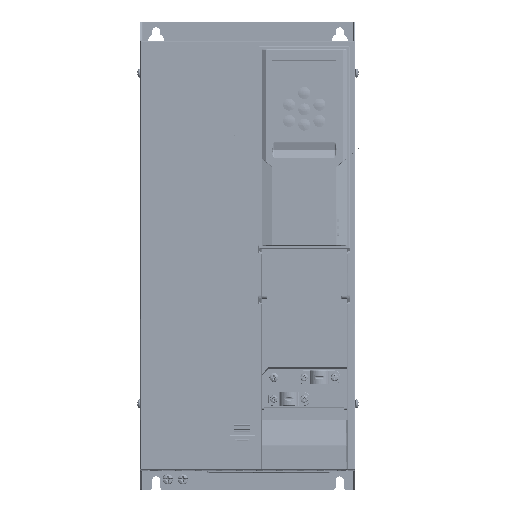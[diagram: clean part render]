
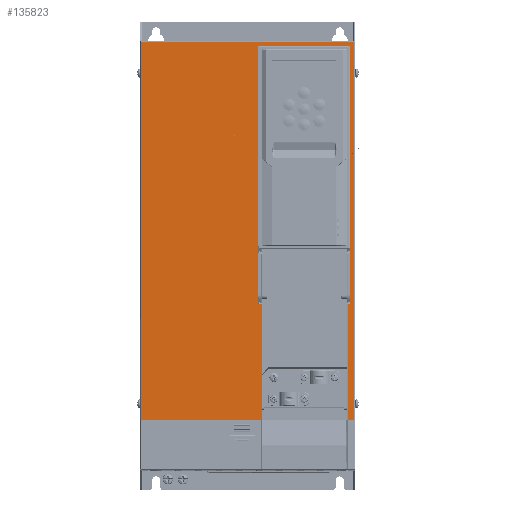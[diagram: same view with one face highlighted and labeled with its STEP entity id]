
A CAD part, top view. The second image highlights one B-rep face of the part: STEP entity #135823.
In plain terms, the highlighted planar face has unit normal (0, 0, 1).
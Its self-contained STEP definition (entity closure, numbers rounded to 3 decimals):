
#25937=DIRECTION('',(-1.,0.,0.));
#25938=VECTOR('',#25937,168.4);
#25939=CARTESIAN_POINT('',(39.7,3.7,0.));
#25940=LINE('',#25939,#25938);
#25944=DIRECTION('',(0.,1.,0.));
#25945=VECTOR('',#25944,299.155);
#25946=CARTESIAN_POINT('',(39.7,-295.455,0.));
#25947=LINE('',#25946,#25945);
#25951=DIRECTION('',(1.,0.,0.));
#25952=VECTOR('',#25951,5.42);
#25953=CARTESIAN_POINT('',(34.28,-295.455,0.));
#25954=LINE('',#25953,#25952);
#25958=DIRECTION('',(0.,-1.,0.));
#25959=VECTOR('',#25958,91.355);
#25960=CARTESIAN_POINT('',(34.28,-204.101,0.));
#25961=LINE('',#25960,#25959);
#25965=DIRECTION('',(-1.,0.,0.));
#25966=VECTOR('',#25965,72.4);
#25967=CARTESIAN_POINT('',(36.2,0.2,0.));
#25968=LINE('',#25967,#25966);
#25972=DIRECTION('',(0.,1.,0.));
#25973=VECTOR('',#25972,91.355);
#25974=CARTESIAN_POINT('',(-34.28,-295.455,0.));
#25975=LINE('',#25974,#25973);
#25979=DIRECTION('',(0.,-1.,0.));
#25980=VECTOR('',#25979,299.155);
#25981=CARTESIAN_POINT('',(-128.7,3.7,0.));
#25982=LINE('',#25981,#25980);
#33828=DIRECTION('',(0.,-1.,0.));
#33829=VECTOR('',#33828,204.301);
#33830=CARTESIAN_POINT('',(36.2,0.2,0.));
#33831=LINE('',#33830,#33829);
#33886=DIRECTION('',(-1.,0.,0.));
#33887=VECTOR('',#33886,1.92);
#33888=CARTESIAN_POINT('',(36.2,-204.101,0.));
#33889=LINE('',#33888,#33887);
#33918=DIRECTION('',(-1.,0.,0.));
#33919=VECTOR('',#33918,1.92);
#33920=CARTESIAN_POINT('',(-34.28,-204.101,0.));
#33921=LINE('',#33920,#33919);
#33973=DIRECTION('',(1.,0.,0.));
#33974=VECTOR('',#33973,94.42);
#33975=CARTESIAN_POINT('',(-128.7,-295.455,0.));
#33976=LINE('',#33975,#33974);
#57506=DIRECTION('',(0.,1.,0.));
#57507=VECTOR('',#57506,204.301);
#57508=CARTESIAN_POINT('',(-36.2,-204.101,0.));
#57509=LINE('',#57508,#57507);
#106410=CARTESIAN_POINT('',(36.2,0.2,0.));
#106411=CARTESIAN_POINT('',(-36.2,0.2,0.));
#106412=VERTEX_POINT('',#106410);
#106413=VERTEX_POINT('',#106411);
#109821=CARTESIAN_POINT('',(36.2,-204.101,0.));
#109822=VERTEX_POINT('',#109821);
#109849=CARTESIAN_POINT('',(-36.2,-204.101,0.));
#109850=VERTEX_POINT('',#109849);
#109867=CARTESIAN_POINT('',(34.28,-204.101,0.));
#109868=CARTESIAN_POINT('',(34.28,-295.455,0.));
#109869=VERTEX_POINT('',#109867);
#109870=VERTEX_POINT('',#109868);
#109871=CARTESIAN_POINT('',(-34.28,-295.455,0.));
#109872=CARTESIAN_POINT('',(-34.28,-204.101,0.));
#109873=VERTEX_POINT('',#109871);
#109874=VERTEX_POINT('',#109872);
#109985=CARTESIAN_POINT('',(39.7,3.7,0.));
#109986=CARTESIAN_POINT('',(-128.7,3.7,0.));
#109987=VERTEX_POINT('',#109985);
#109988=VERTEX_POINT('',#109986);
#109993=CARTESIAN_POINT('',(-128.7,-295.455,0.));
#109994=VERTEX_POINT('',#109993);
#109997=CARTESIAN_POINT('',(39.7,-295.455,0.));
#109998=VERTEX_POINT('',#109997);
#135793=CARTESIAN_POINT('',(0.,0.,0.));
#135794=DIRECTION('',(0.,0.,1.));
#135795=DIRECTION('',(1.,0.,0.));
#135796=AXIS2_PLACEMENT_3D('',#135793,#135794,#135795);
#135797=PLANE('',#135796);
#135798=ORIENTED_EDGE('',*,*,#134997,.F.);
#135800=ORIENTED_EDGE('',*,*,#135799,.F.);
#135802=ORIENTED_EDGE('',*,*,#135801,.F.);
#135804=ORIENTED_EDGE('',*,*,#135803,.F.);
#135806=ORIENTED_EDGE('',*,*,#135805,.F.);
#135808=ORIENTED_EDGE('',*,*,#135807,.F.);
#135810=ORIENTED_EDGE('',*,*,#135809,.T.);
#135812=ORIENTED_EDGE('',*,*,#135811,.F.);
#135814=ORIENTED_EDGE('',*,*,#135813,.F.);
#135816=ORIENTED_EDGE('',*,*,#135815,.F.);
#135818=ORIENTED_EDGE('',*,*,#135817,.F.);
#135820=ORIENTED_EDGE('',*,*,#135819,.F.);
#135821=EDGE_LOOP('',(#135798,#135800,#135802,#135804,#135806,#135808,#135810,
#135812,#135814,#135816,#135818,#135820));
#135822=FACE_OUTER_BOUND('',#135821,.F.);
#135823=ADVANCED_FACE('',(#135822),#135797,.T.);
#134997=EDGE_CURVE('',#109987,#109988,#25940,.T.);
#135799=EDGE_CURVE('',#109998,#109987,#25947,.T.);
#135801=EDGE_CURVE('',#109870,#109998,#25954,.T.);
#135803=EDGE_CURVE('',#109869,#109870,#25961,.T.);
#135805=EDGE_CURVE('',#109822,#109869,#33889,.T.);
#135807=EDGE_CURVE('',#106412,#109822,#33831,.T.);
#135809=EDGE_CURVE('',#106412,#106413,#25968,.T.);
#135811=EDGE_CURVE('',#109850,#106413,#57509,.T.);
#135813=EDGE_CURVE('',#109874,#109850,#33921,.T.);
#135815=EDGE_CURVE('',#109873,#109874,#25975,.T.);
#135817=EDGE_CURVE('',#109994,#109873,#33976,.T.);
#135819=EDGE_CURVE('',#109988,#109994,#25982,.T.);
